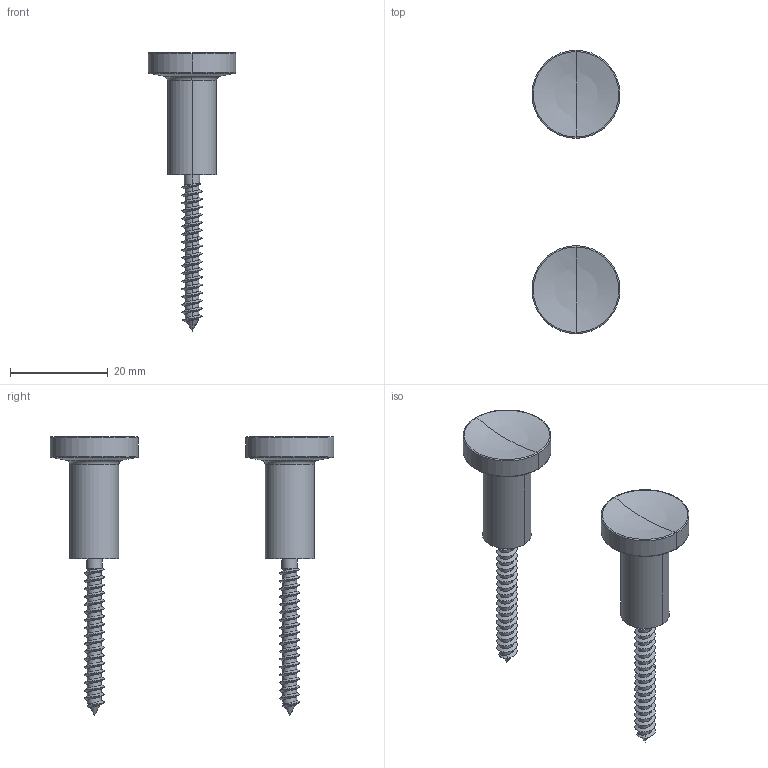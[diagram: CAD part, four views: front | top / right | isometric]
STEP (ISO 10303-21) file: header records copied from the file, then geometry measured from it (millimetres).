
FILE_DESCRIPTION((''),'2;1');
FILE_NAME('48731--00_SUB01_ASM','2024-10-24T13:53:49',('clra1'),(''),'CREO PARAMETRIC BY PTC INC, 2022244','CREO PARAMETRIC BY PTC INC, 2022244','');
FILE_SCHEMA(('CONFIG_CONTROL_DESIGN'));
Length unit declared in the file: millimetre
Products named in the file (3): 46752--; 4674200; 48731--00_SUB01_ASM
Assembly tree (4 placements, depth 2):
  48731--00_SUB01_ASM
    46752--  x2
    4674200  x2
Bounding box: 18 x 58 x 57.01 mm (x, y, z)
Volume: 5516.1 mm3; surface area: 5693.1 mm2
Topology: 4 solids, 8 shells, 200 faces, 514 edges, 322 vertices
Faces by surface type: cylinder 104, bspline 32, plane 26, cone 22, torus 12, sphere 4
Entity records: 6015 total; most frequent: CARTESIAN_POINT 3699, ORIENTED_EDGE 492, DIRECTION 402, EDGE_CURVE 251, VERTEX_POINT 161, AXIS2_PLACEMENT_3D 155, EDGE_LOOP 106, FACE_OUTER_BOUND 100
